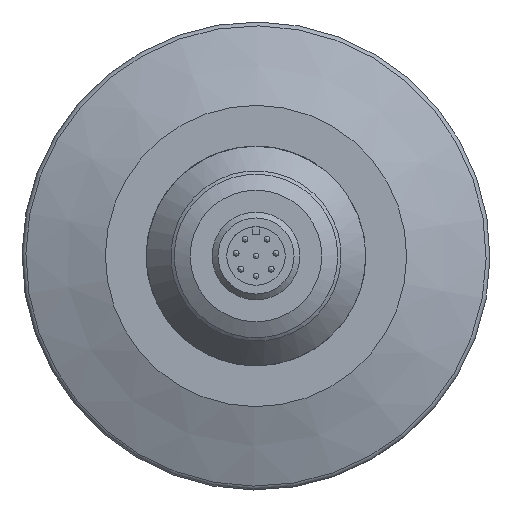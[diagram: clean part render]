
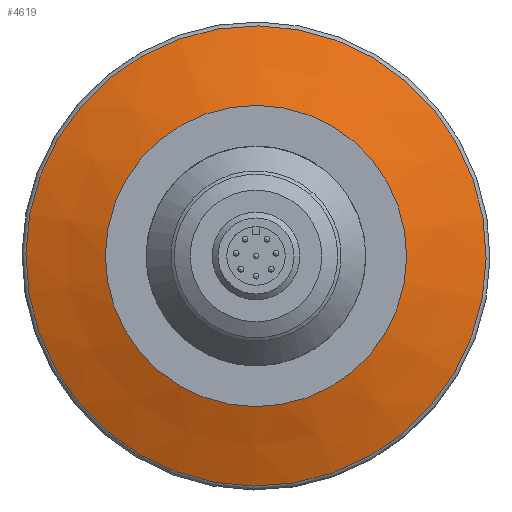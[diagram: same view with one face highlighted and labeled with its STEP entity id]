
A CAD part, front view. The second image highlights one B-rep face of the part: STEP entity #4619.
In plain terms, the highlighted conical face has half-angle 70 degrees and reference radius 31.474 mm.
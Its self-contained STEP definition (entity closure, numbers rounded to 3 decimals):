
#348=CONICAL_SURFACE('',#4805,31.474,1.222);
#1434=ORIENTED_EDGE('',*,*,#1970,.F.);
#1435=ORIENTED_EDGE('',*,*,#1974,.T.);
#1970=EDGE_CURVE('',#2306,#2306,#2410,.T.);
#1974=EDGE_CURVE('',#2310,#2310,#2414,.T.);
#2306=VERTEX_POINT('',#10112);
#2310=VERTEX_POINT('',#10123);
#2410=CIRCLE('',#4799,31.474);
#2414=CIRCLE('',#4806,20.598);
#2660=EDGE_LOOP('',(#1434));
#2661=EDGE_LOOP('',(#1435));
#2928=FACE_BOUND('',#2660,.T.);
#2929=FACE_BOUND('',#2661,.T.);
#4619=ADVANCED_FACE('',(#2928,#2929),#348,.T.);
#4799=AXIS2_PLACEMENT_3D('',#10111,#5266,#5267);
#4805=AXIS2_PLACEMENT_3D('',#10121,#5278,#5279);
#4806=AXIS2_PLACEMENT_3D('',#10122,#5280,#5281);
#5266=DIRECTION('',(0.,1.,0.));
#5267=DIRECTION('',(-0.011,0.,-1.));
#5278=DIRECTION('',(0.,1.,0.));
#5279=DIRECTION('',(-0.011,0.,-1.));
#5280=DIRECTION('',(0.,1.,0.));
#5281=DIRECTION('',(-0.011,0.,-1.));
#10111=CARTESIAN_POINT('',(0.,1.953,0.));
#10112=CARTESIAN_POINT('',(-0.332,1.953,-31.472));
#10121=CARTESIAN_POINT('',(0.,1.953,0.));
#10122=CARTESIAN_POINT('',(0.,-2.005,0.));
#10123=CARTESIAN_POINT('',(-0.217,-2.005,-20.597));
